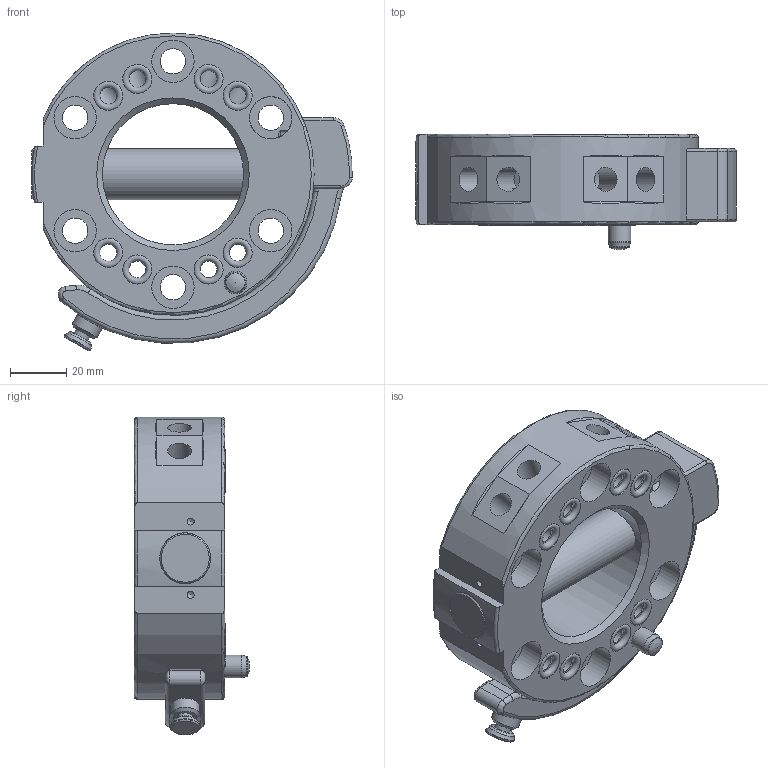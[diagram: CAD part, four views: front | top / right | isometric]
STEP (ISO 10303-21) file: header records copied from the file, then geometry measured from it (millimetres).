
FILE_DESCRIPTION(/* description */ (''),/* implementation_level */ '2;1');
FILE_NAME(/* name */ 'T:\Engineering\Homepage\Homepage 2020\4 3D Step-Daten - Homepage\4 SHW\G-SHW100-2OEP.stp',/* time_stamp */ '2023-06-30T10:48:22+02:00',/* author */ ('ysplieth'),/* organization */ (''),/* preprocessor_version */ 'ST-DEVELOPER v17',/* originating_system */ 'Autodesk Inventor 2018',/* authorisation */ '');
FILE_SCHEMA (('AUTOMOTIVE_DESIGN { 1 0 10303 214 3 1 1 }'));
Length unit declared in the file: millimetre
Products named in the file (1): Bauteil11
Bounding box: 113.49 x 40.8 x 112.52 mm (x, y, z)
Volume: 195303.8 mm3; surface area: 58205.8 mm2
Topology: 14 solids, 14 shells, 196 faces, 545 edges, 380 vertices
Faces by surface type: cylinder 80, plane 56, torus 37, cone 19, bspline 2, sphere 2
Full cylindrical faces by diameter (mm): 2.459 x2, 3.242 x2, 5.58 x1, 6 x8, 6.2 x1, 6.8 x1, 7.8 x1, 8 x3, 8.566 x4, 9 x6, 10 x1, 10.1 x1, 10.3 x8, 10.6 x1, 10.9 x8, 15 x6, 18 x3, 50 x1
Entity records: 7369 total; most frequent: CARTESIAN_POINT 1738, DIRECTION 1201, ORIENTED_EDGE 1068, EDGE_CURVE 534, AXIS2_PLACEMENT_3D 527, VERTEX_POINT 380, CIRCLE 324, EDGE_LOOP 266
